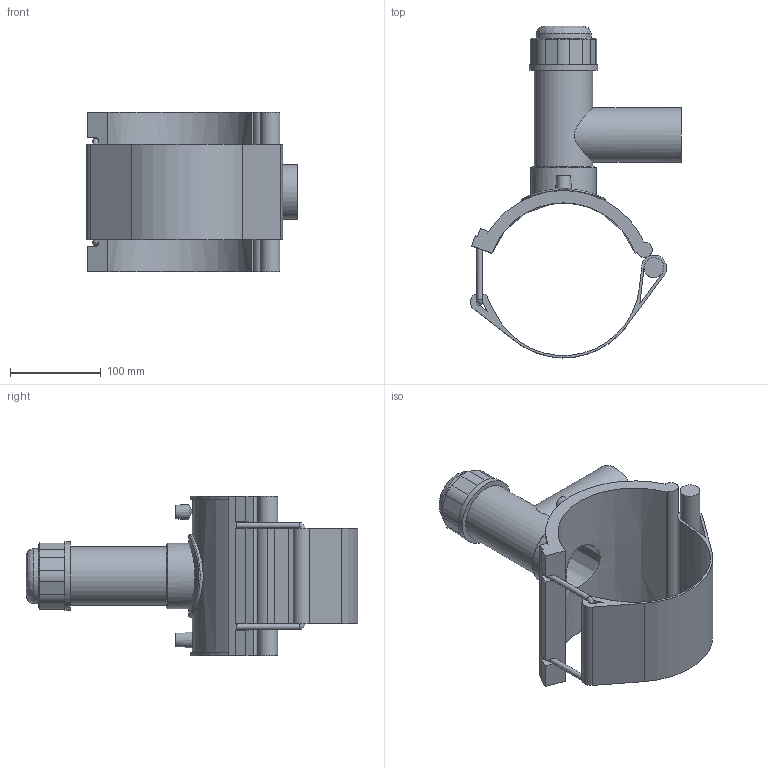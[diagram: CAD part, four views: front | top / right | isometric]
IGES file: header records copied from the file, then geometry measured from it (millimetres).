
Global section: file name: 5913BB03060020.ipt; native system: Autodesk Inventor 2019; preprocessor: unknown; author: KIM; date: 20210830.101039; units: millimetre
Bounding box: 232.24 x 365.32 x 176.02 mm (x, y, z)
Volume: 1184708.8 mm3; surface area: 292453.1 mm2
Topology: 2 solids, 2 shells, 124 faces, 314 edges, 195 vertices
Faces by surface type: plane 69, cylinder 29, revolution 12, cone 11, bspline 3
Full cylindrical faces by diameter (mm): 4 x2, 6.048 x2, 21.84 x1, 60.1 x1, 60.614 x1, 64.403 x1, 71.98 x1, 75.768 x1, 92.4 x1
